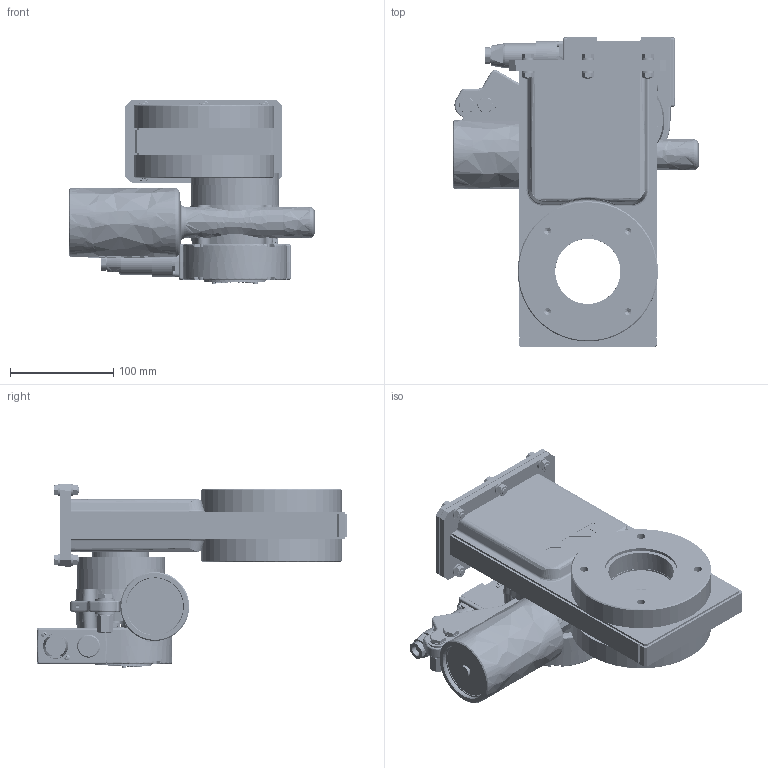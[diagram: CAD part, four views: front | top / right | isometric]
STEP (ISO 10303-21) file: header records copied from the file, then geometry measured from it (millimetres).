
FILE_DESCRIPTION((''),'2;1');
FILE_NAME( '\\vs000004\VAT\MT\MT\Systeme\Cad\Datenexporte\www_vat_ch\235569.stp','2004-09-24T14:19:20',('User'),('SDRC'),'I-DEAS Master Series 9','UNIX','Yes');
FILE_SCHEMA(('CONFIG_CONTROL_DESIGN'));
Length unit declared in the file: millimetre
Assembly tree (70 placements, depth 0):
Bounding box: 237.6 x 300.13 x 178.45 mm (x, y, z)
Volume: 1561129.5 mm3; surface area: 608996 mm2
Topology: 96 solids, 96 shells, 2444 faces, 5552 edges, 3598 vertices
Faces by surface type: bspline 2444
Entity records: 60568 total; most frequent: CARTESIAN_POINT 31614, ORIENTED_EDGE 7722, EDGE_CURVE 3861, VERTEX_POINT 2473, EDGE_LOOP 1996, FACE_OUTER_BOUND 1660, ADVANCED_FACE 1660, QUASI_UNIFORM_CURVE 1215
